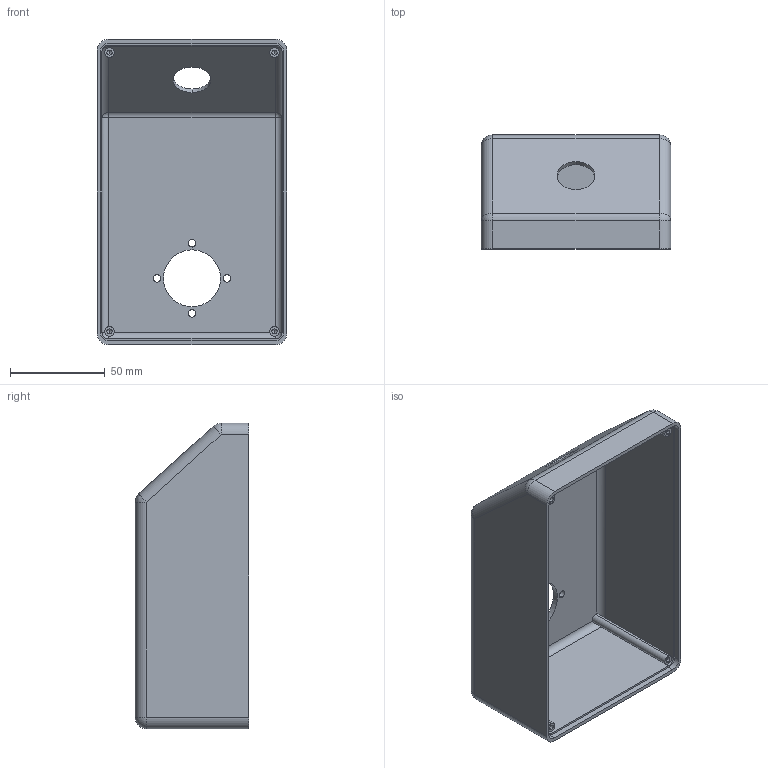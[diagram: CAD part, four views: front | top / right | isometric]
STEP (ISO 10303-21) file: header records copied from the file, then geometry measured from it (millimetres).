
FILE_DESCRIPTION (( 'STEP AP203' ), '1' );
FILE_NAME ('Gehäusedeckel_Strapubox-3023-H-60-Pult.STEP', '2020-12-15T00:52:20', ( '' ), ( '' ), 'SwSTEP 2.0', 'SolidWorks 2017', '' );
FILE_SCHEMA (( 'CONFIG_CONTROL_DESIGN' ));
Length unit declared in the file: millimetre
Products named in the file (1): Gehäusedeckel_Strapubox-3023-H-60-Pult
Bounding box: 100 x 60 x 161 mm (x, y, z)
Volume: 107804 mm3; surface area: 83077.9 mm2
Topology: 1 solids, 1 shells, 96 faces, 240 edges, 138 vertices
Faces by surface type: cylinder 54, plane 22, sphere 12, cone 8
Entity records: 2985 total; most frequent: CARTESIAN_POINT 633, DIRECTION 508, ORIENTED_EDGE 452, EDGE_CURVE 226, AXIS2_PLACEMENT_3D 201, VERTEX_POINT 138, EDGE_LOOP 114, LINE 106
